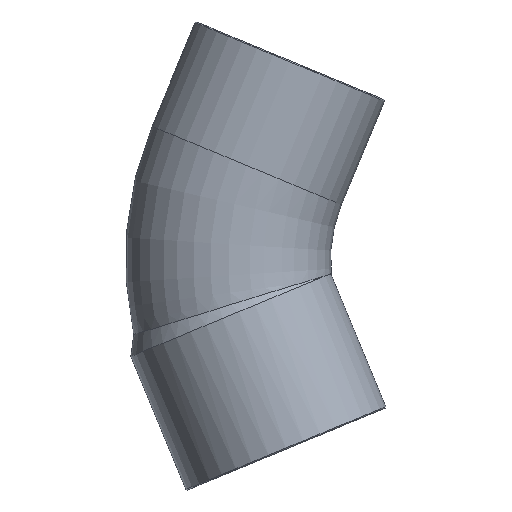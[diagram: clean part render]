
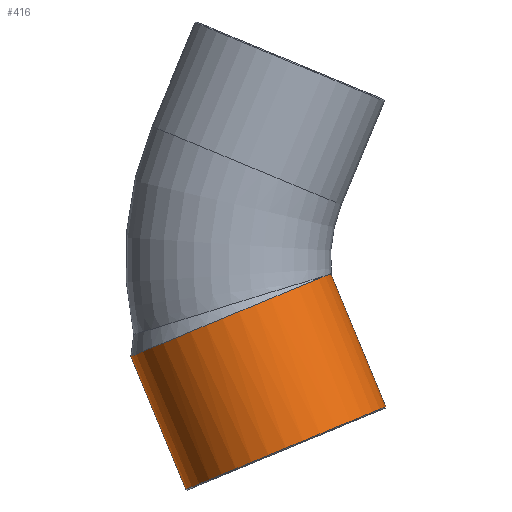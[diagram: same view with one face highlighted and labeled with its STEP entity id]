
A CAD part, front view. The second image highlights one B-rep face of the part: STEP entity #416.
In plain terms, the highlighted cylindrical face has radius 21.1 mm (diameter 42.2 mm), a partial arc.
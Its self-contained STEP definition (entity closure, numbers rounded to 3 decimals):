
#60=CARTESIAN_POINT('',(-24.612,-6.88,-3.181));
#61=VERTEX_POINT('',#60);
#206=CARTESIAN_POINT('',(-62.534,0.,-18.889));
#207=VERTEX_POINT('',#206);
#214=CARTESIAN_POINT('',(-43.04,0.,-10.814));
#215=DIRECTION('',(-0.383,0.,0.924));
#216=DIRECTION('',(0.924,0.0,0.383));
#217=AXIS2_PLACEMENT_3D('',#214,#215,#216);
#218=CIRCLE('',#217,21.1);
#219=EDGE_CURVE('',#207,#61,#218,.T.);
#230=CARTESIAN_POINT('',(-23.547,0.,-2.74));
#231=VERTEX_POINT('',#230);
#239=CARTESIAN_POINT('',(-43.04,0.,-10.814));
#240=DIRECTION('',(-0.383,0.,0.924));
#241=DIRECTION('',(0.924,0.0,0.383));
#242=AXIS2_PLACEMENT_3D('',#239,#240,#241);
#243=CIRCLE('',#242,21.1);
#244=EDGE_CURVE('',#61,#231,#243,.T.);
#384=CARTESIAN_POINT('',(-42.928,0.,-11.087));
#385=DIRECTION('',(0.383,0.,-0.924));
#386=DIRECTION('',(0.924,0.0,0.383));
#387=AXIS2_PLACEMENT_3D('',#384,#385,#386);
#388=CYLINDRICAL_SURFACE('',#387,21.1);
#389=CARTESIAN_POINT('',(-12.795,0.,-28.696));
#390=VERTEX_POINT('',#389);
#391=CARTESIAN_POINT('',(-23.547,0.,-2.74));
#392=DIRECTION('',(0.383,0.,-0.924));
#393=VECTOR('',#392,28.095);
#394=LINE('',#391,#393);
#395=EDGE_CURVE('',#231,#390,#394,.T.);
#396=ORIENTED_EDGE('',*,*,#395,.F.);
#397=ORIENTED_EDGE('',*,*,#244,.F.);
#398=ORIENTED_EDGE('',*,*,#219,.F.);
#399=CARTESIAN_POINT('',(-51.783,0.,-44.845));
#400=VERTEX_POINT('',#399);
#401=CARTESIAN_POINT('',(-51.783,0.,-44.845));
#402=DIRECTION('',(-0.383,0.,0.924));
#403=VECTOR('',#402,28.095);
#404=LINE('',#401,#403);
#405=EDGE_CURVE('',#400,#207,#404,.T.);
#406=ORIENTED_EDGE('',*,*,#405,.F.);
#407=CARTESIAN_POINT('',(-32.289,0.,-36.77));
#408=DIRECTION('',(0.383,0.,-0.924));
#409=DIRECTION('',(0.924,0.0,0.383));
#410=AXIS2_PLACEMENT_3D('',#407,#408,#409);
#411=CIRCLE('',#410,21.1);
#412=EDGE_CURVE('',#390,#400,#411,.T.);
#413=ORIENTED_EDGE('',*,*,#412,.F.);
#414=EDGE_LOOP('',(#396,#397,#398,#406,#413));
#415=FACE_OUTER_BOUND('',#414,.T.);
#416=ADVANCED_FACE('',(#415),#388,.T.);
